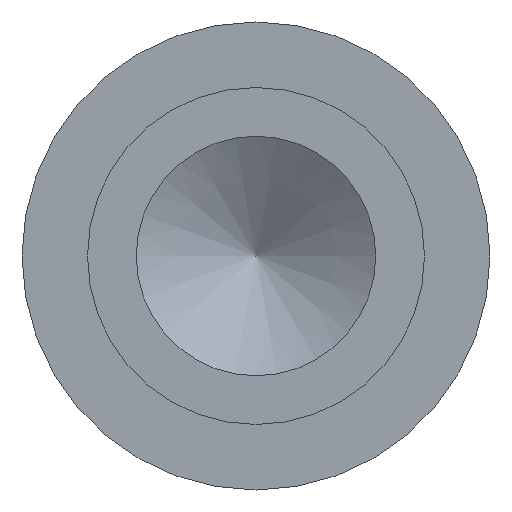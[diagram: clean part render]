
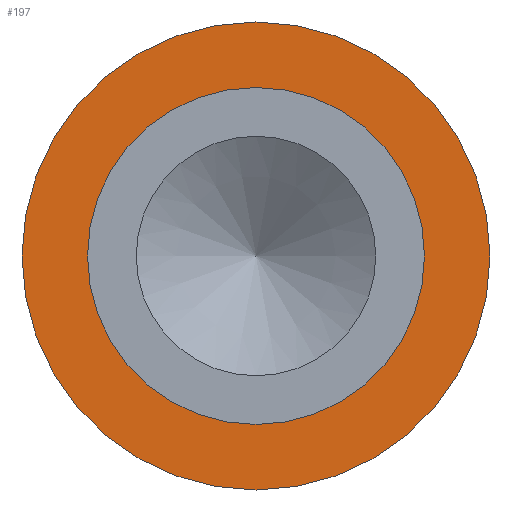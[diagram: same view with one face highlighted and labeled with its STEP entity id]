
A CAD part, left-side view. The second image highlights one B-rep face of the part: STEP entity #197.
In plain terms, the highlighted planar face has unit normal (-1, 0, 0).
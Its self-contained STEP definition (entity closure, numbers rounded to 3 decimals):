
#17=PLANE($,#223);
#26=FACE_BOUND($,#73,.T.);
#54=FACE_OUTER_BOUND($,#72,.T.);
#72=EDGE_LOOP($,(#162));
#73=EDGE_LOOP($,(#163));
#105=CIRCLE($,#221,1.143);
#107=CIRCLE($,#224,1.588);
#123=VERTEX_POINT($,#337);
#125=VERTEX_POINT($,#342);
#141=EDGE_CURVE($,#123,#123,#105,.T.);
#143=EDGE_CURVE($,#125,#125,#107,.T.);
#162=ORIENTED_EDGE($,*,*,#143,.F.);
#163=ORIENTED_EDGE($,*,*,#141,.T.);
#197=ADVANCED_FACE($,(#54,#26),#17,.T.);
#221=AXIS2_PLACEMENT_3D($,#338,#265,#266);
#223=AXIS2_PLACEMENT_3D($,#341,#269,#270);
#224=AXIS2_PLACEMENT_3D($,#343,#271,#272);
#265=DIRECTION('center_axis',(1.,0.,0.));
#266=DIRECTION('ref_axis',(0.,1.,0.));
#269=DIRECTION('center_axis',(-1.,0.,0.));
#270=DIRECTION('ref_axis',(0.,0.,1.));
#271=DIRECTION('center_axis',(1.,0.,0.));
#272=DIRECTION('ref_axis',(0.,1.,0.));
#337=CARTESIAN_POINT('',(1.981,1.143,0.));
#338=CARTESIAN_POINT('Origin',(1.981,0.,0.));
#341=CARTESIAN_POINT('Origin',(1.981,1.365,0.));
#342=CARTESIAN_POINT('',(1.981,1.588,0.));
#343=CARTESIAN_POINT('Origin',(1.981,0.,0.));
